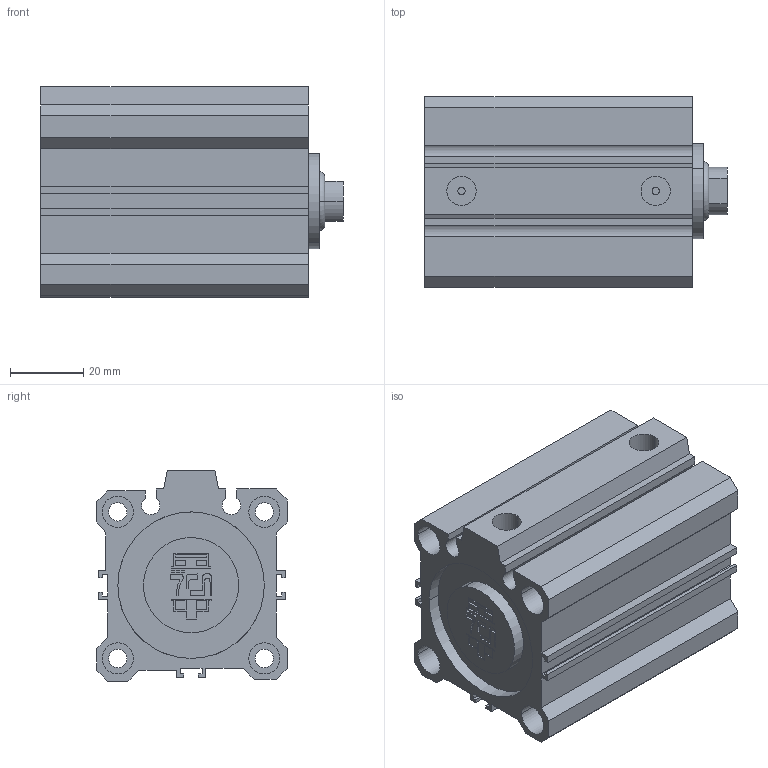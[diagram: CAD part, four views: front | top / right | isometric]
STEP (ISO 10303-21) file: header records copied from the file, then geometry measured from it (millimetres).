
FILE_DESCRIPTION(('CATIA V5 STEP Exchange'),'2;1');
FILE_NAME('D:\PDA\PDA-STP\PDA 40-16\PDA 40-16-35-00.stp','2016-02-02T14:06:07+00:00',('none'),('none'),'Version 5-6 Release 2012','CATIA V5 STEP AP203','none');
FILE_SCHEMA(('CONFIG_CONTROL_DESIGN'));
Length unit declared in the file: millimetre
Products named in the file (1): PDA 40-16-35-00
Assembly tree (2 placements, depth 2):
  PDA 40-16-35-00
    #58
    #6821
Bounding box: 82.5 x 52 x 57.5 mm (x, y, z)
Volume: 127553.6 mm3; surface area: 50221.2 mm2
Topology: 2 solids, 2 shells, 257 faces, 660 edges, 440 vertices
Faces by surface type: plane 181, cylinder 74, torus 2
Entity records: 7290 total; most frequent: ORIENTED_EDGE 1320, CARTESIAN_POINT 1272, DIRECTION 1004, EDGE_CURVE 660, VECTOR 500, LINE 500, VERTEX_POINT 440, AXIS2_PLACEMENT_3D 332
